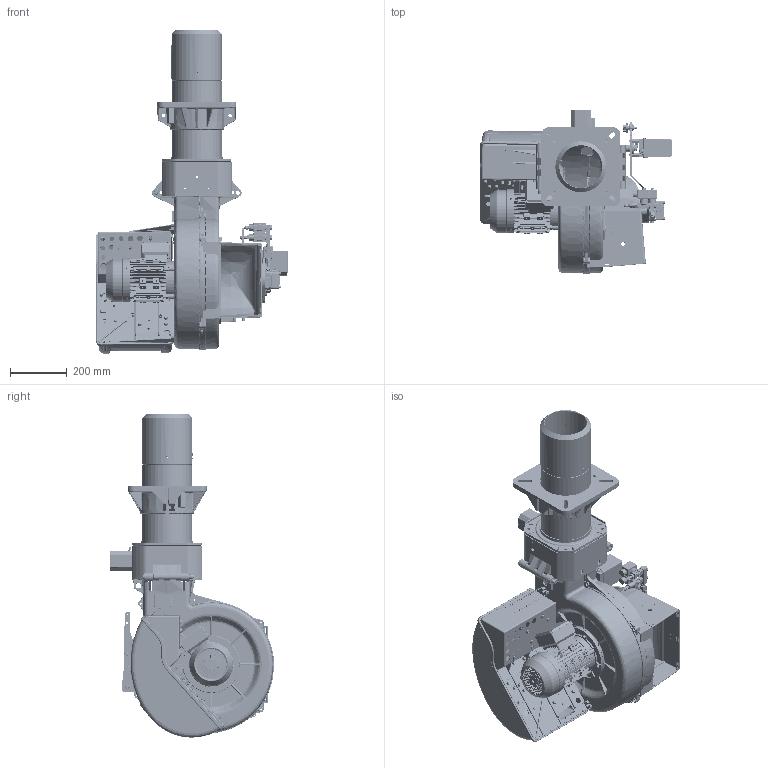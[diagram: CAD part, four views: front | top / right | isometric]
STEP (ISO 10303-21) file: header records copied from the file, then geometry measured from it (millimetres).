
FILE_DESCRIPTION (( 'STEP AP203' ), '1' );
FILE_NAME ('56490010-115728.STEP', '2016-11-18T15:08:56', ( '' ), ( '' ), 'SwSTEP 2.0', 'SolidWorks 2016', '' );
FILE_SCHEMA (( 'CONFIG_CONTROL_DESIGN' ));
Length unit declared in the file: millimetre
Products named in the file (1): 56490010-115728
Bounding box: 679.37 x 580.54 x 1143.77 mm (x, y, z)
Surface area: 3732119.9 mm2 (no closed solid volume)
Topology: 0 solids, 335 shells, 4233 faces, 18063 edges, 13557 vertices
Faces by surface type: plane 1765, cylinder 1211, bspline 948, cone 245, torus 48, sphere 16
Full cylindrical faces by diameter (mm): 2.5 x1, 3.242 x3, 3.3 x2, 3.7 x4, 4 x5, 4.2 x5, 4.5 x2, 4.8 x3, 5 x10, 5.1 x1, 5.4 x1, 5.5 x2, 5.857 x2, 6 x11, 6.2 x1, 6.5 x4, 6.8 x3, 7 x12, 7.9 x1, 8 x25, 8.2 x1, 8.5 x14, 8.728 x1, 8.8 x4, 9 x1, 9.5 x3, 9.64 x1, 9.728 x2, 9.73 x1, 10 x3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
Entity records: 330444 total; most frequent: CARTESIAN_POINT 204596, ORIENTED_EDGE 24795, DIRECTION 19647, EDGE_CURVE 17506, VERTEX_POINT 13420, LINE 7639, VECTOR 7639, B_SPLINE_CURVE_WITH_KNOTS 6737
